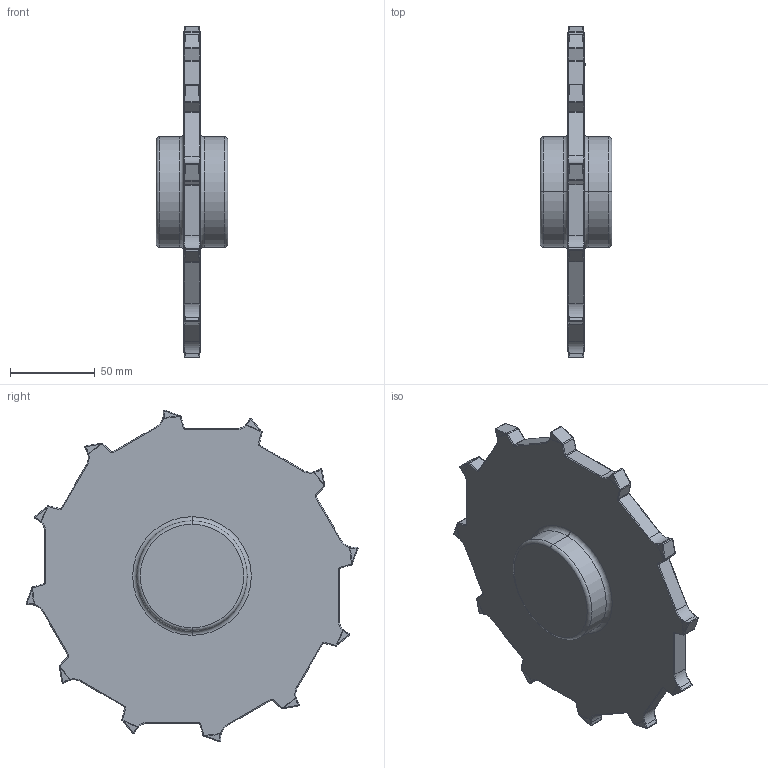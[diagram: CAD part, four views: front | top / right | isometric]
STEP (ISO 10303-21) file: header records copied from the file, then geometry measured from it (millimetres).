
FILE_DESCRIPTION((''),'2;1');
FILE_NAME('18Z12','2011-12-22T',('mth'),(''),'PRO/ENGINEER BY PARAMETRIC TECHNOLOGY CORPORATION, 2010280','PRO/ENGINEER BY PARAMETRIC TECHNOLOGY CORPORATION, 2010280','');
FILE_SCHEMA(('CONFIG_CONTROL_DESIGN','SHAPE_APPEARANCE_LAYERS_GROUPS'));
Length unit declared in the file: millimetre
Products named in the file (1): 18Z12
Bounding box: 42.3 x 195.84 x 195.84 mm (x, y, z)
Volume: 352959 mm3; surface area: 63927.6 mm2
Topology: 1 solids, 1 shells, 875 faces, 2209 edges, 1365 vertices
Faces by surface type: plane 465, bspline 154, cylinder 112, torus 94, cone 26, sphere 24
Entity records: 36055 total; most frequent: CARTESIAN_POINT 9305, ORIENTED_EDGE 4414, DIRECTION 3843, PRESENTATION_STYLE_ASSIGNMENT 2208, STYLED_ITEM 2208, CURVE_STYLE 2207, EDGE_CURVE 2207, VECTOR 1389
